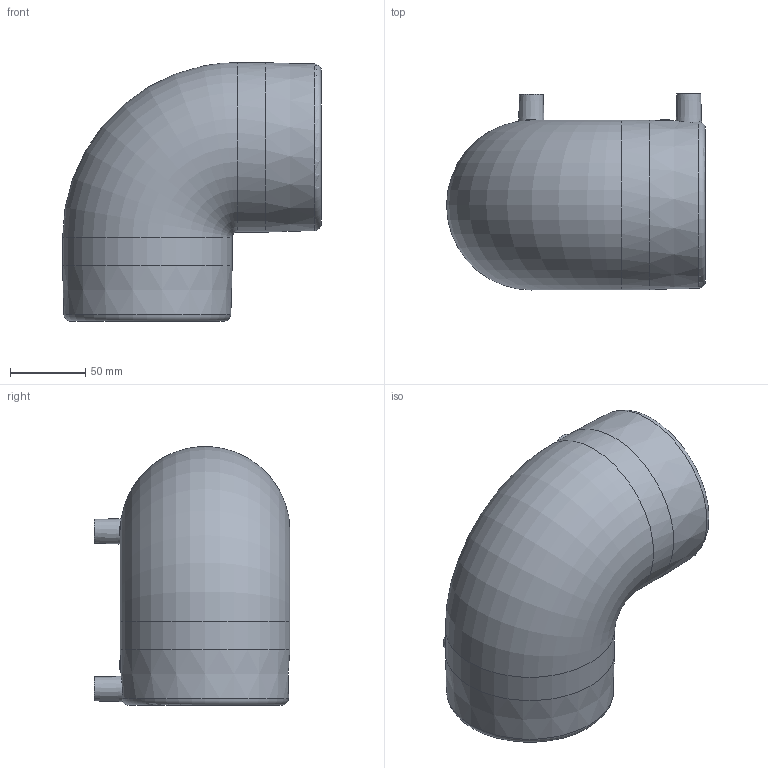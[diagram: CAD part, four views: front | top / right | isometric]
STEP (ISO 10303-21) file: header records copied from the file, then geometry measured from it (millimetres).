
FILE_DESCRIPTION(/* description */ ('Unknown'),/* implementation_level */ '2;1');
FILE_NAME(/* name */ 'GE9P090C',/* time_stamp */ '2021-02-11T16:03:41+01:00',/* author */ ('Unknown'),/* organization */ ('Unknown'),/* preprocessor_version */ 'ST-DEVELOPER v16.7',/* originating_system */ 'Solid Edge',/* authorisation */ 'Unknown');
FILE_SCHEMA (('AUTOMOTIVE_DESIGN {1 0 10303 214 3 1 1}'));
Length unit declared in the file: millimetre
Products named in the file (1): GE9P090C
Bounding box: 172.5 x 130.5 x 172.5 mm (x, y, z)
Volume: 829127 mm3; surface area: 140739.9 mm2
Topology: 1 solids, 1 shells, 32 faces, 65 edges, 43 vertices
Faces by surface type: plane 12, cylinder 12, cone 4, torus 4
Full cylindrical faces by diameter (mm): 4 x2, 6 x2, 12 x2, 90 x2, 113 x2
Entity records: 820 total; most frequent: CARTESIAN_POINT 234, DIRECTION 120, ORIENTED_EDGE 78, AXIS2_PLACEMENT_3D 60, EDGE_LOOP 59, FACE_BOUND 59, EDGE_CURVE 39, VERTEX_POINT 34
